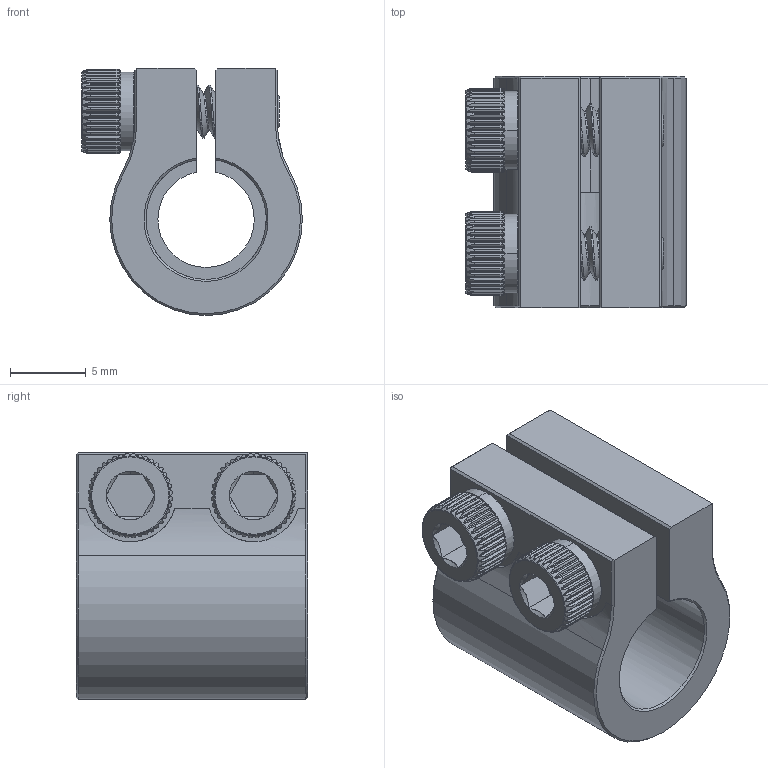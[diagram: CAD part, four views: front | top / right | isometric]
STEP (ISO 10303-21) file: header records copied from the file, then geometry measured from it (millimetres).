
FILE_DESCRIPTION (( 'STEP AP203' ), '1' );
FILE_NAME ('625046 assembly.STEP', '2017-01-18T20:00:55', ( '' ), ( '' ), 'SwSTEP 2.0', 'SolidWorks 2016', '' );
FILE_SCHEMA (( 'CONFIG_CONTROL_DESIGN' ));
Length unit declared in the file: inch
Products named in the file (3): 625046 assembly; 625046; 632110_90128A121
Assembly tree (3 placements, depth 2):
  625046 assembly
    625046
    632110_90128A121  x2
Bounding box: 14.55 x 15.24 x 16.29 mm (x, y, z)
Volume: 1928.2 mm3; surface area: 2210.7 mm2
Topology: 3 solids, 3 shells, 1857 faces, 4458 edges, 2609 vertices
Faces by surface type: bspline 892, cylinder 614, plane 281, torus 38, cone 32
Entity records: 44549 total; most frequent: CARTESIAN_POINT 25206, ORIENTED_EDGE 4724, DIRECTION 2945, EDGE_CURVE 2362, VERTEX_POINT 1390, AXIS2_PLACEMENT_3D 1211, B_SPLINE_CURVE_WITH_KNOTS 989, EDGE_LOOP 984
